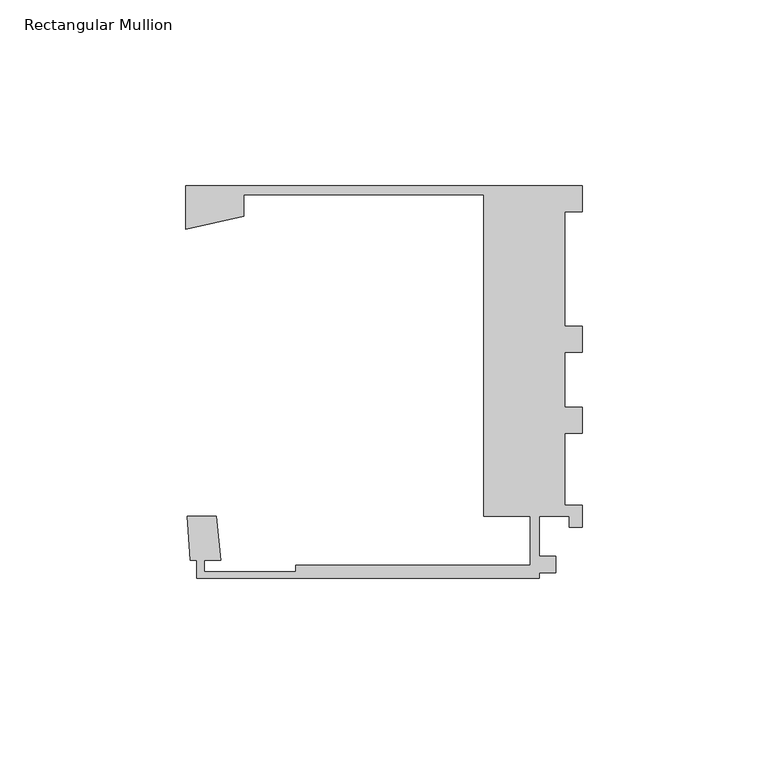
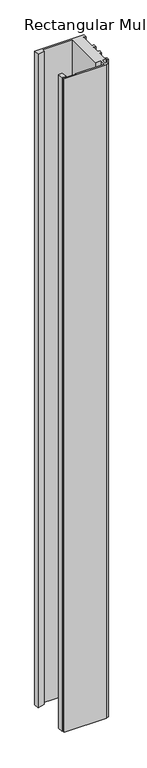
"""IFC4 building model written with IfcOpenShell, lengths in millimetres: member geometry, Rectangular Mullion : Danpal_Airpt_End-Mullion_B1."""

from ifc_helpers import new_model, si_unit, frame, origin, place, context, project, spatial, polyline, outline, extrude, source, transform, mapped, element, save


def rectangular_mullion_f415532d(model_context):
    return source(origin(), model_context, "Body", "SweptSolid", [
        extrude(outline(polyline([(-11.6055875, -92.6094337), (-103.8999976, -92.6094337), (-103.8999976, -87.7698451), (-105.6776694, -87.7698451), (-106.4274982, -75.8596534), (-98.5693208, -75.8596534), (-97.4384397, -87.7698451), (-101.8999976, -87.7698451), (-101.8999976, -90.8094336), (-77.1531178, -90.8094336), (-77.1531178, -89.1094336), (-14.1055875, -89.1094336), (-14.1055875, -75.8596534), (-26.6209612, -75.8596534), (-26.6209612, 10.6837558), (-91.2900275, 10.6837558), (-91.2900275, 4.9090081), (-106.8892292, 1.4378016), (-106.8892292, 13.1837558), (0.0, 13.1837558), (0.0, 6.1837558), (-4.8, 6.1837558), (-4.8, -24.6595054), (0.0, -24.6595054), (0.0, -31.6595227), (-4.8, -31.6595227), (-4.8, -46.4688518), (0.0, -46.4688518), (0.0, -53.4688518), (-4.8, -53.4688518), (-4.8, -72.9077707), (0.0, -72.9077707), (0.0, -78.8594337), (-3.5072447, -78.8594337), (-3.5072447, -75.8594337), (-11.6055875, -75.8594337), (-11.6055875, -86.6049249), (-7.1518595, -86.6049249), (-7.1518595, -91.1094337), (-11.6055875, -91.1094337), (-11.6055875, -92.6094337)])), frame((0.0, 0.0, -1500.0), z_axis=(0.0, 0.0, 1.0), x_axis=(1.0, 0.0, 0.0)), (0.0, 0.0, 1.0), 1500.0),
    ])


if __name__ == "__main__":
    model = new_model("IFC4")
    model_context = context("Model", 3, world=origin())
    ifc_project = project(units=[si_unit("LENGTHUNIT", "METRE", prefix="MILLI")], contexts=[model_context])
    site = spatial("IfcSite", under=ifc_project)
    building = spatial("IfcBuilding", under=site)
    placement = place(None, origin())
    rectangular_mullion_shape = rectangular_mullion_f415532d(model_context)
    element("IfcMember", 1, ObjectType="Rectangular Mullion : Danpal_Airpt_End-Mullion_B1", at=placement, inside=building, context=model_context, shape_type="MappedRepresentation", body=[
        mapped(rectangular_mullion_shape, transform((0.0, 0.0, 0.0), x_axis=(1.0, 0.0, 0.0), y_axis=(0.0, 1.0, 0.0), z_axis=(0.0, 0.0, 1.0))),
    ])
    save(model, "model.ifc")
